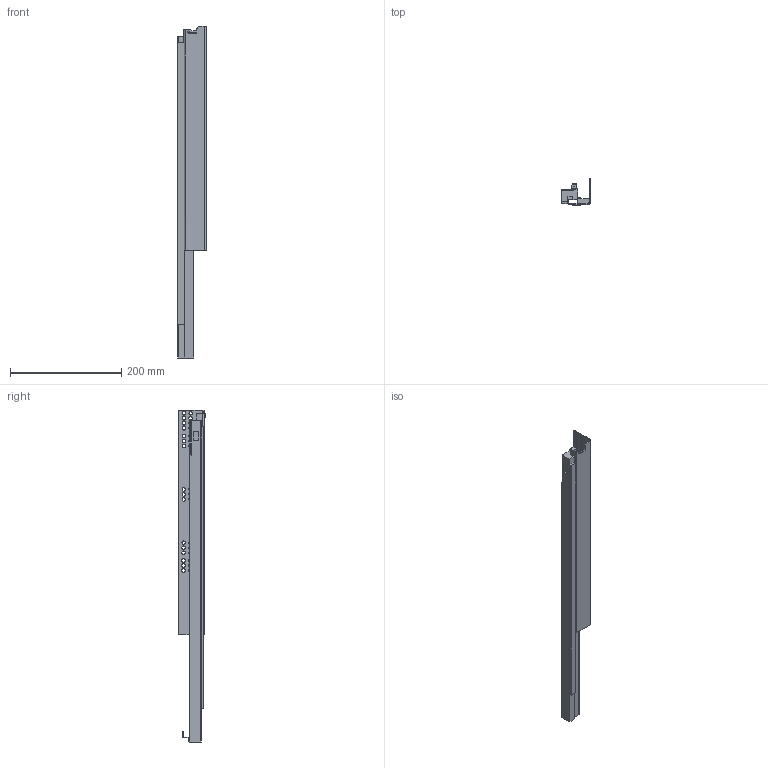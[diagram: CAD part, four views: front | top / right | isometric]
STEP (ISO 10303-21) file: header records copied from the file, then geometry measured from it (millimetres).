
FILE_DESCRIPTION (( 'STEP AP203' ), '1' );
FILE_NAME ('TS10600H-R-DTC3D-close.STEP', '2021-07-09T05:35:14', ( 'df' ), ( 'Microsoft' ), 'SwSTEP 2.0', 'SolidWorks 2018', '' );
FILE_SCHEMA (( 'CONFIG_CONTROL_DESIGN' ));
Length unit declared in the file: millimetre
Products named in the file (1): TS10600H-R-DTC3D-close
Bounding box: 51.73 x 48 x 598 mm (x, y, z)
Volume: 452997.1 mm3; surface area: 130531.5 mm2
Topology: 1 solids, 1 shells, 291 faces, 827 edges, 542 vertices
Faces by surface type: cylinder 113, plane 112, bspline 47, torus 15, sphere 4
Entity records: 11319 total; most frequent: CARTESIAN_POINT 3696, ORIENTED_EDGE 1646, DIRECTION 1454, EDGE_CURVE 823, VERTEX_POINT 542, AXIS2_PLACEMENT_3D 502, VECTOR 450, LINE 450
